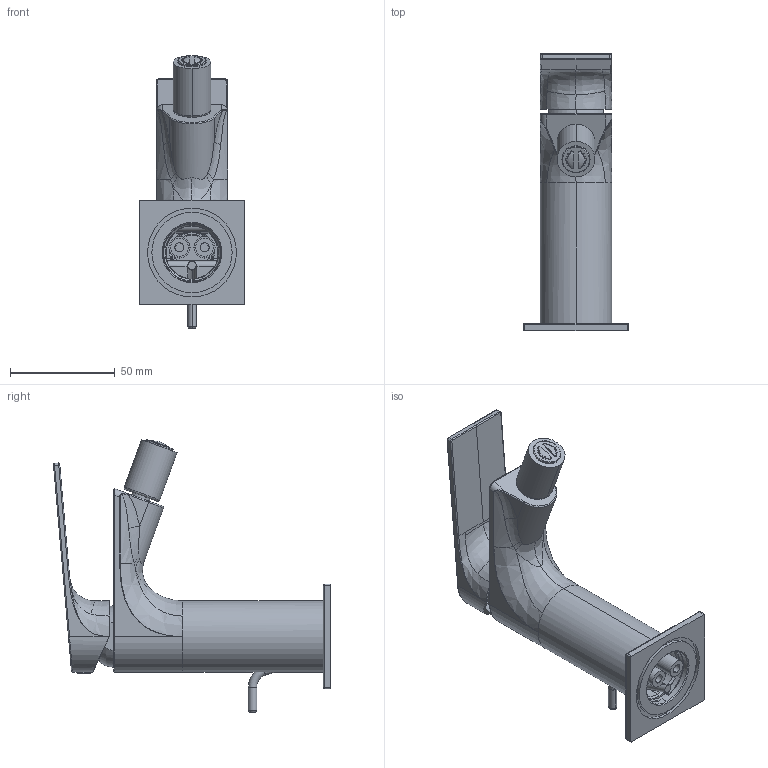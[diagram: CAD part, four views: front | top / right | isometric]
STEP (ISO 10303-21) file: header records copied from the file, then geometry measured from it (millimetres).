
FILE_DESCRIPTION((''),'2;1');
FILE_NAME('78103_SW0001','2024-09-12T14:40:16',('carloff'),(''),'CREO PARAMETRIC BY PTC INC, 2022014','CREO PARAMETRIC BY PTC INC, 2022014','');
FILE_SCHEMA(('CONFIG_CONTROL_DESIGN'));
Length unit declared in the file: millimetre
Products named in the file (1): 78103_SW0001
Bounding box: 50 x 132.15 x 130 mm (x, y, z)
Volume: 86324.8 mm3; surface area: 53905.3 mm2
Topology: 4 solids, 4 shells, 624 faces, 1569 edges, 969 vertices
Faces by surface type: cylinder 172, plane 148, torus 128, bspline 119, cone 34, sphere 17, extrusion 6
Entity records: 36617 total; most frequent: CARTESIAN_POINT 22722, ORIENTED_EDGE 3126, DIRECTION 2614, EDGE_CURVE 1563, AXIS2_PLACEMENT_3D 1087, VERTEX_POINT 969, EDGE_LOOP 656, FACE_OUTER_BOUND 624
